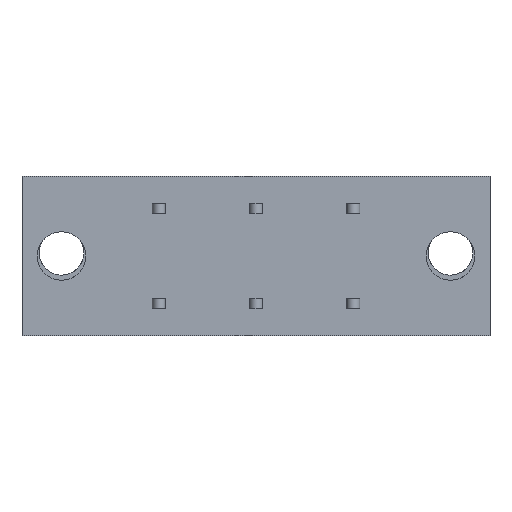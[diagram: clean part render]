
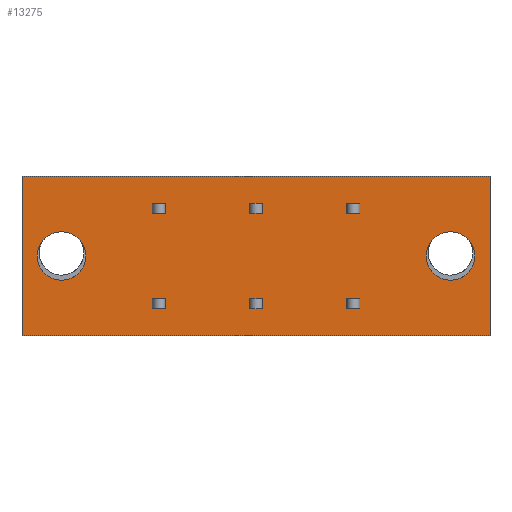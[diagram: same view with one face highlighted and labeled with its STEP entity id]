
A CAD part, front view. The second image highlights one B-rep face of the part: STEP entity #13275.
In plain terms, the highlighted planar face has unit normal (0, -1, 0).
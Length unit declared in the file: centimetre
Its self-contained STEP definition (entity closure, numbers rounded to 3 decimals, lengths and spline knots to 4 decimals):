
#815=PLANE('',#21625);
#1453=VECTOR('',#14247,1.);
#1640=VECTOR('',#14649,1.);
#1644=VECTOR('',#14654,1.);
#1649=VECTOR('',#14666,1.);
#1652=VECTOR('',#14676,1.);
#1662=VECTOR('',#14701,1.);
#1665=VECTOR('',#14705,1.);
#1666=VECTOR('',#14707,1.);
#1668=VECTOR('',#14709,1.);
#1679=VECTOR('',#14730,1.);
#1703=VECTOR('',#14755,1.);
#1753=VECTOR('',#14828,1.);
#1758=VECTOR('',#14837,1.);
#1761=VECTOR('',#14841,1.);
#1773=VECTOR('',#14880,1.);
#1775=VECTOR('',#14883,1.);
#1777=VECTOR('',#14885,1.);
#1778=VECTOR('',#14887,1.);
#1780=VECTOR('',#14890,1.);
#1902=VECTOR('',#15188,1.);
#1903=VECTOR('',#15189,1.);
#1904=VECTOR('',#15190,1.);
#1905=VECTOR('',#15191,1.);
#1906=VECTOR('',#15192,1.);
#1907=VECTOR('',#15193,1.);
#1908=VECTOR('',#15194,1.);
#1909=VECTOR('',#15195,1.);
#1910=VECTOR('',#15196,1.);
#2913=LINE('',#17715,#1453);
#3100=LINE('',#18304,#1640);
#3104=LINE('',#18313,#1644);
#3109=LINE('',#18328,#1649);
#3112=LINE('',#18338,#1652);
#3122=LINE('',#18364,#1662);
#3125=LINE('',#18369,#1665);
#3126=LINE('',#18371,#1666);
#3128=LINE('',#18374,#1668);
#3139=LINE('',#18403,#1679);
#3163=LINE('',#18449,#1703);
#3213=LINE('',#18555,#1753);
#3218=LINE('',#18568,#1758);
#3221=LINE('',#18574,#1761);
#3233=LINE('',#18614,#1773);
#3235=LINE('',#18618,#1775);
#3237=LINE('',#18621,#1777);
#3238=LINE('',#18623,#1778);
#3240=LINE('',#18627,#1780);
#3362=LINE('',#19066,#1902);
#3363=LINE('',#19067,#1903);
#3364=LINE('',#19070,#1904);
#3365=LINE('',#19072,#1905);
#3366=LINE('',#19074,#1906);
#3367=LINE('',#19075,#1907);
#3368=LINE('',#19078,#1908);
#3369=LINE('',#19080,#1909);
#3370=LINE('',#19082,#1910);
#4306=VERTEX_POINT('',#17714);
#4307=VERTEX_POINT('',#17716);
#4310=VERTEX_POINT('',#17724);
#4489=VERTEX_POINT('',#18305);
#4490=VERTEX_POINT('',#18306);
#4493=VERTEX_POINT('',#18314);
#4494=VERTEX_POINT('',#18315);
#4499=VERTEX_POINT('',#18329);
#4502=VERTEX_POINT('',#18339);
#4508=VERTEX_POINT('',#18365);
#4509=VERTEX_POINT('',#18372);
#4522=VERTEX_POINT('',#18404);
#4543=VERTEX_POINT('',#18450);
#4580=VERTEX_POINT('',#18556);
#4581=VERTEX_POINT('',#18557);
#4585=VERTEX_POINT('',#18569);
#4587=VERTEX_POINT('',#18575);
#4588=VERTEX_POINT('',#18576);
#4599=VERTEX_POINT('',#18615);
#4600=VERTEX_POINT('',#18619);
#4601=VERTEX_POINT('',#18624);
#4728=VERTEX_POINT('',#19065);
#4729=VERTEX_POINT('',#19068);
#4730=VERTEX_POINT('',#19069);
#4731=VERTEX_POINT('',#19071);
#4732=VERTEX_POINT('',#19073);
#4733=VERTEX_POINT('',#19076);
#4734=VERTEX_POINT('',#19077);
#4735=VERTEX_POINT('',#19079);
#4736=VERTEX_POINT('',#19081);
#5243=CIRCLE('',#21300,0.19);
#5352=CIRCLE('',#21626,0.19);
#5949=EDGE_CURVE('',#4307,#4306,#2913,.T.);
#5953=EDGE_CURVE('',#4310,#4310,#5243,.T.);
#6219=EDGE_CURVE('',#4489,#4490,#3100,.T.);
#6223=EDGE_CURVE('',#4493,#4494,#3104,.T.);
#6230=EDGE_CURVE('',#4499,#4493,#3109,.T.);
#6235=EDGE_CURVE('',#4502,#4489,#3112,.T.);
#6248=EDGE_CURVE('',#4508,#4499,#3122,.T.);
#6251=EDGE_CURVE('',#4494,#4508,#3125,.T.);
#6252=EDGE_CURVE('',#4509,#4502,#3126,.T.);
#6254=EDGE_CURVE('',#4490,#4509,#3128,.T.);
#6268=EDGE_CURVE('',#4522,#4306,#3139,.T.);
#6292=EDGE_CURVE('',#4543,#4307,#3163,.T.);
#6345=EDGE_CURVE('',#4580,#4581,#3213,.T.);
#6351=EDGE_CURVE('',#4581,#4585,#3218,.T.);
#6354=EDGE_CURVE('',#4587,#4588,#3221,.T.);
#6373=EDGE_CURVE('',#4588,#4599,#3233,.T.);
#6375=EDGE_CURVE('',#4599,#4600,#3235,.T.);
#6377=EDGE_CURVE('',#4600,#4587,#3237,.T.);
#6378=EDGE_CURVE('',#4585,#4601,#3238,.T.);
#6380=EDGE_CURVE('',#4601,#4580,#3240,.T.);
#6576=EDGE_CURVE('',#4728,#4728,#5352,.T.);
#6577=EDGE_CURVE('',#4522,#4543,#3362,.T.);
#6578=EDGE_CURVE('',#4729,#4730,#3363,.T.);
#6579=EDGE_CURVE('',#4730,#4731,#3364,.T.);
#6580=EDGE_CURVE('',#4731,#4732,#3365,.T.);
#6581=EDGE_CURVE('',#4732,#4729,#3366,.T.);
#6582=EDGE_CURVE('',#4733,#4734,#3367,.T.);
#6583=EDGE_CURVE('',#4734,#4735,#3368,.T.);
#6584=EDGE_CURVE('',#4735,#4736,#3369,.T.);
#6585=EDGE_CURVE('',#4736,#4733,#3370,.T.);
#9616=ORIENTED_EDGE('',*,*,#5953,.T.);
#9617=ORIENTED_EDGE('',*,*,#6576,.T.);
#9618=ORIENTED_EDGE('',*,*,#6230,.F.);
#9619=ORIENTED_EDGE('',*,*,#6248,.F.);
#9620=ORIENTED_EDGE('',*,*,#6251,.F.);
#9621=ORIENTED_EDGE('',*,*,#6223,.F.);
#9622=ORIENTED_EDGE('',*,*,#6235,.F.);
#9623=ORIENTED_EDGE('',*,*,#6252,.F.);
#9624=ORIENTED_EDGE('',*,*,#6254,.F.);
#9625=ORIENTED_EDGE('',*,*,#6219,.F.);
#9626=ORIENTED_EDGE('',*,*,#6378,.T.);
#9627=ORIENTED_EDGE('',*,*,#6380,.T.);
#9628=ORIENTED_EDGE('',*,*,#6345,.T.);
#9629=ORIENTED_EDGE('',*,*,#6351,.T.);
#9630=ORIENTED_EDGE('',*,*,#6373,.T.);
#9631=ORIENTED_EDGE('',*,*,#6375,.T.);
#9632=ORIENTED_EDGE('',*,*,#6377,.T.);
#9633=ORIENTED_EDGE('',*,*,#6354,.T.);
#9634=ORIENTED_EDGE('',*,*,#6292,.T.);
#9635=ORIENTED_EDGE('',*,*,#5949,.T.);
#9636=ORIENTED_EDGE('',*,*,#6268,.F.);
#9637=ORIENTED_EDGE('',*,*,#6577,.T.);
#9638=ORIENTED_EDGE('',*,*,#6578,.T.);
#9639=ORIENTED_EDGE('',*,*,#6579,.T.);
#9640=ORIENTED_EDGE('',*,*,#6580,.T.);
#9641=ORIENTED_EDGE('',*,*,#6581,.T.);
#9642=ORIENTED_EDGE('',*,*,#6582,.T.);
#9643=ORIENTED_EDGE('',*,*,#6583,.T.);
#9644=ORIENTED_EDGE('',*,*,#6584,.T.);
#9645=ORIENTED_EDGE('',*,*,#6585,.T.);
#11707=EDGE_LOOP('',(#9616));
#11708=EDGE_LOOP('',(#9617));
#11709=EDGE_LOOP('',(#9618,#9619,#9620,#9621));
#11710=EDGE_LOOP('',(#9622,#9623,#9624,#9625));
#11711=EDGE_LOOP('',(#9626,#9627,#9628,#9629));
#11712=EDGE_LOOP('',(#9630,#9631,#9632,#9633));
#11713=EDGE_LOOP('',(#9634,#9635,#9636,#9637));
#11714=EDGE_LOOP('',(#9638,#9639,#9640,#9641));
#11715=EDGE_LOOP('',(#9642,#9643,#9644,#9645));
#12511=FACE_BOUND('',#11707,.T.);
#12512=FACE_BOUND('',#11708,.T.);
#12513=FACE_BOUND('',#11709,.T.);
#12514=FACE_BOUND('',#11710,.T.);
#12515=FACE_BOUND('',#11711,.T.);
#12516=FACE_BOUND('',#11712,.T.);
#12517=FACE_BOUND('',#11713,.T.);
#12518=FACE_BOUND('',#11714,.T.);
#12519=FACE_BOUND('',#11715,.T.);
#13275=ADVANCED_FACE('',(#12511,#12512,#12513,#12514,#12515,#12516,#12517,
#12518,#12519),#815,.T.);
#14247=DIRECTION('',(0.,0.,1.));
#14253=DIRECTION('',(0.,1.,0.));
#14254=DIRECTION('',(0.19,0.,0.));
#14649=DIRECTION('',(0.,0.,-1.));
#14654=DIRECTION('',(0.,0.,1.));
#14666=DIRECTION('',(1.,0.,0.));
#14676=DIRECTION('',(-1.,0.,0.));
#14701=DIRECTION('',(0.,0.,-1.));
#14705=DIRECTION('',(-1.,0.,0.));
#14707=DIRECTION('',(0.,0.,1.));
#14709=DIRECTION('',(1.,0.,0.));
#14730=DIRECTION('',(1.,0.,0.));
#14755=DIRECTION('',(1.,0.,0.));
#14828=DIRECTION('',(-1.,0.,0.));
#14837=DIRECTION('',(0.,0.,1.));
#14841=DIRECTION('',(0.,0.,-1.));
#14880=DIRECTION('',(-1.,0.,0.));
#14883=DIRECTION('',(0.,0.,1.));
#14885=DIRECTION('',(1.,0.,0.));
#14887=DIRECTION('',(1.,0.,0.));
#14890=DIRECTION('',(0.,0.,-1.));
#15185=DIRECTION('',(0.,-1.,0.));
#15186=DIRECTION('',(0.,1.,0.));
#15187=DIRECTION('',(0.19,0.,0.));
#15188=DIRECTION('',(0.,0.,-1.));
#15189=DIRECTION('',(-1.,0.,0.));
#15190=DIRECTION('',(0.,0.,1.));
#15191=DIRECTION('',(1.,0.,0.));
#15192=DIRECTION('',(0.,0.,-1.));
#15193=DIRECTION('',(1.,0.,0.));
#15194=DIRECTION('',(0.,0.,-1.));
#15195=DIRECTION('',(-1.,0.,0.));
#15196=DIRECTION('',(0.,0.,1.));
#17714=CARTESIAN_POINT('',(2.286,0.,0.625));
#17715=CARTESIAN_POINT('',(2.286,0.,0.625));
#17716=CARTESIAN_POINT('',(2.286,0.,-0.625));
#17723=CARTESIAN_POINT('',(1.976,0.,0.));
#17724=CARTESIAN_POINT('',(1.786,0.,0.));
#18304=CARTESIAN_POINT('',(-0.36,0.,-0.1875));
#18305=CARTESIAN_POINT('',(-0.36,0.,-0.335));
#18306=CARTESIAN_POINT('',(-0.36,0.,-0.415));
#18313=CARTESIAN_POINT('',(-0.26,0.,0.1875));
#18314=CARTESIAN_POINT('',(-0.26,0.,0.335));
#18315=CARTESIAN_POINT('',(-0.26,0.,0.415));
#18328=CARTESIAN_POINT('',(-0.465,0.,0.335));
#18329=CARTESIAN_POINT('',(-0.36,0.,0.335));
#18338=CARTESIAN_POINT('',(-0.465,0.,-0.335));
#18339=CARTESIAN_POINT('',(-0.26,0.,-0.335));
#18364=CARTESIAN_POINT('',(-0.36,0.,0.1875));
#18365=CARTESIAN_POINT('',(-0.36,0.,0.415));
#18369=CARTESIAN_POINT('',(-0.465,0.,0.415));
#18371=CARTESIAN_POINT('',(-0.26,0.,-0.1875));
#18372=CARTESIAN_POINT('',(-0.26,0.,-0.415));
#18374=CARTESIAN_POINT('',(-0.465,0.,-0.415));
#18403=CARTESIAN_POINT('',(-1.382,0.,0.625));
#18404=CARTESIAN_POINT('',(-1.382,0.,0.625));
#18449=CARTESIAN_POINT('',(-1.382,0.,-0.625));
#18450=CARTESIAN_POINT('',(-1.382,0.,-0.625));
#18555=CARTESIAN_POINT('',(0.226,0.,-0.415));
#18556=CARTESIAN_POINT('',(0.502,0.,-0.415));
#18557=CARTESIAN_POINT('',(0.402,0.,-0.415));
#18568=CARTESIAN_POINT('',(0.402,0.,-0.1875));
#18569=CARTESIAN_POINT('',(0.402,0.,-0.335));
#18574=CARTESIAN_POINT('',(0.502,0.,0.1875));
#18575=CARTESIAN_POINT('',(0.502,0.,0.415));
#18576=CARTESIAN_POINT('',(0.502,0.,0.335));
#18614=CARTESIAN_POINT('',(0.226,0.,0.335));
#18615=CARTESIAN_POINT('',(0.402,0.,0.335));
#18618=CARTESIAN_POINT('',(0.402,0.,0.1875));
#18619=CARTESIAN_POINT('',(0.402,0.,0.415));
#18621=CARTESIAN_POINT('',(0.226,0.,0.415));
#18623=CARTESIAN_POINT('',(0.226,0.,-0.335));
#18624=CARTESIAN_POINT('',(0.502,0.,-0.335));
#18627=CARTESIAN_POINT('',(0.502,0.,-0.1875));
#19063=CARTESIAN_POINT('',(0.,0.,0.));
#19064=CARTESIAN_POINT('',(-1.072,0.,0.));
#19065=CARTESIAN_POINT('',(-1.262,0.,0.));
#19066=CARTESIAN_POINT('',(-1.382,0.,0.625));
#19067=CARTESIAN_POINT('',(0.607,0.,0.335));
#19068=CARTESIAN_POINT('',(1.264,0.,0.335));
#19069=CARTESIAN_POINT('',(1.164,0.,0.335));
#19070=CARTESIAN_POINT('',(1.164,0.,0.1875));
#19071=CARTESIAN_POINT('',(1.164,0.,0.415));
#19072=CARTESIAN_POINT('',(0.607,0.,0.415));
#19073=CARTESIAN_POINT('',(1.264,0.,0.415));
#19074=CARTESIAN_POINT('',(1.264,0.,0.1875));
#19075=CARTESIAN_POINT('',(0.607,0.,-0.335));
#19076=CARTESIAN_POINT('',(1.164,0.,-0.335));
#19077=CARTESIAN_POINT('',(1.264,0.,-0.335));
#19078=CARTESIAN_POINT('',(1.264,0.,-0.1875));
#19079=CARTESIAN_POINT('',(1.264,0.,-0.415));
#19080=CARTESIAN_POINT('',(0.607,0.,-0.415));
#19081=CARTESIAN_POINT('',(1.164,0.,-0.415));
#19082=CARTESIAN_POINT('',(1.164,0.,-0.1875));
#21300=AXIS2_PLACEMENT_3D('',#17723,#14253,#14254);
#21625=AXIS2_PLACEMENT_3D('',#19063,#15185,$);
#21626=AXIS2_PLACEMENT_3D('',#19064,#15186,#15187);
